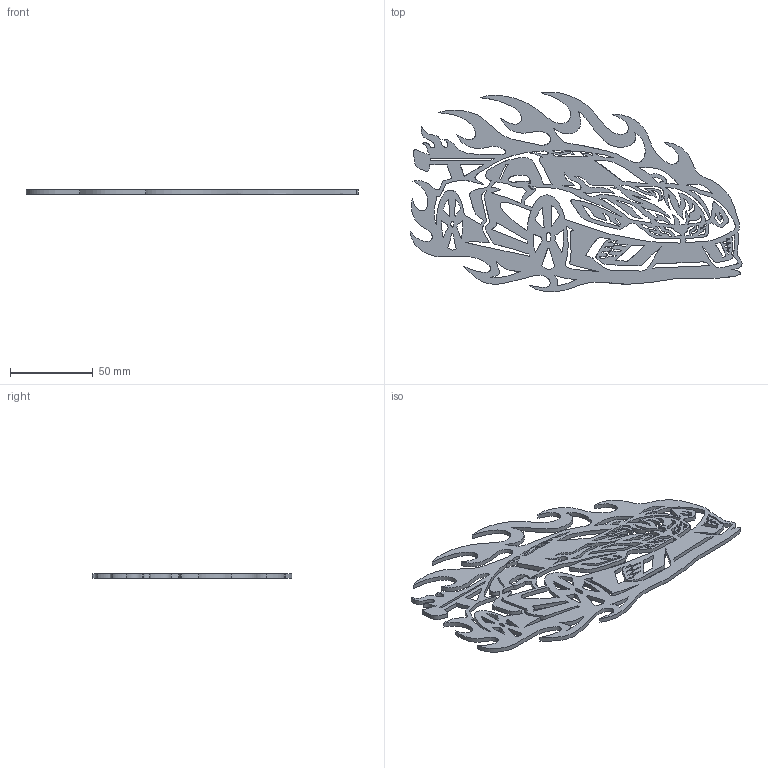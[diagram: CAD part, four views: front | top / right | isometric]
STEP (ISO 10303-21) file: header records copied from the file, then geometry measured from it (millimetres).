
FILE_DESCRIPTION(('STEP AP214'),'1');
FILE_NAME('Drawing2.stp','2026-08-15T10:45:00',(' '),(' '),'Spatial InterOp 3D',' ',' ');
FILE_SCHEMA(('AUTOMOTIVE_DESIGN { 1 0 10303 214 1 1 1 1 }'));
Length unit declared in the file: metre
Products named in the file (1): 1786793232
Bounding box: 200.02 x 120.25 x 2.7 mm (x, y, z)
Volume: 30775.5 mm3; surface area: 35677.5 mm2
Topology: 1 solids, 1 shells, 287 faces, 855 edges, 570 vertices
Faces by surface type: extrusion 253, plane 26, cylinder 8
Entity records: 16783 total; most frequent: CARTESIAN_POINT 7572, ORIENTED_EDGE 1704, EDGE_CURVE 852, B_SPLINE_CURVE_WITH_KNOTS 693, DIRECTION 685, VECTOR 583, VERTEX_POINT 570, EDGE_LOOP 414
